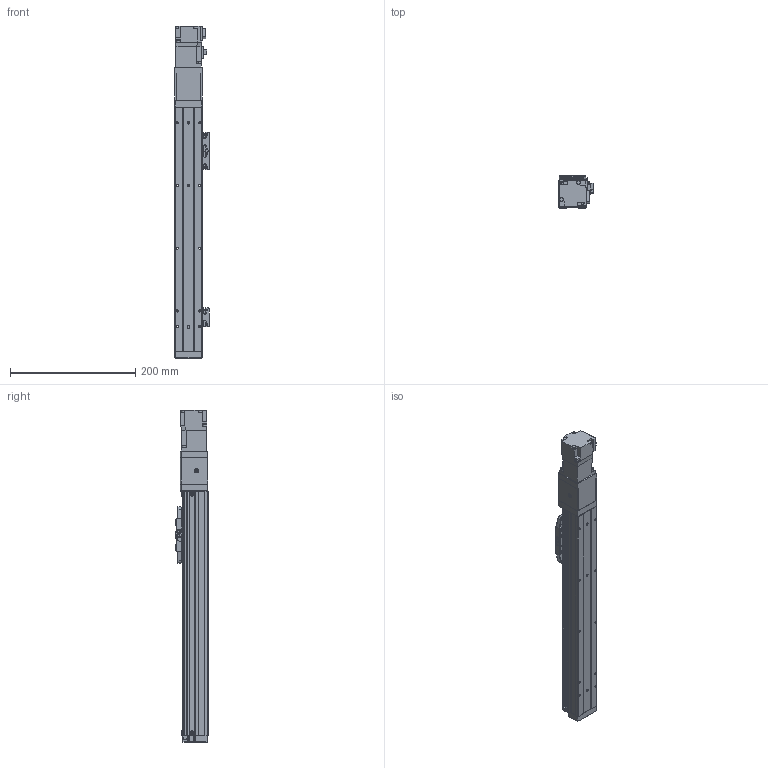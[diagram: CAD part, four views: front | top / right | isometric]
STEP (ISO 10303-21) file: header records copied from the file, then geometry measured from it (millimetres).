
FILE_DESCRIPTION (( 'STEP AP214' ), '1' );
FILE_NAME ('RGH4-XX-250-E-M05-C4.step', '2025-10-28T06:23:16', ( 'Microsoft' ), ( 'Microsoft' ), 'SwSTEP 2.0', 'SolidWorks 2018', '' );
FILE_SCHEMA (( 'AUTOMOTIVE_DESIGN' ));
Length unit declared in the file: millimetre
Products named in the file (1): RGH4-XX-250-E-M05-C4
Bounding box: 55.2 x 52 x 529.4 mm (x, y, z)
Volume: 844473 mm3; surface area: 176335.8 mm2
Topology: 51 solids, 51 shells, 1880 faces, 4400 edges, 2708 vertices
Faces by surface type: plane 1026, cylinder 457, cone 257, torus 132, sphere 8
Entity records: 75110 total; most frequent: CARTESIAN_POINT 9941, DIRECTION 9464, ORIENTED_EDGE 8728, EDGE_CURVE 4364, AXIS2_PLACEMENT_3D 3301, LINE 2862, VECTOR 2862, VERTEX_POINT 2704
